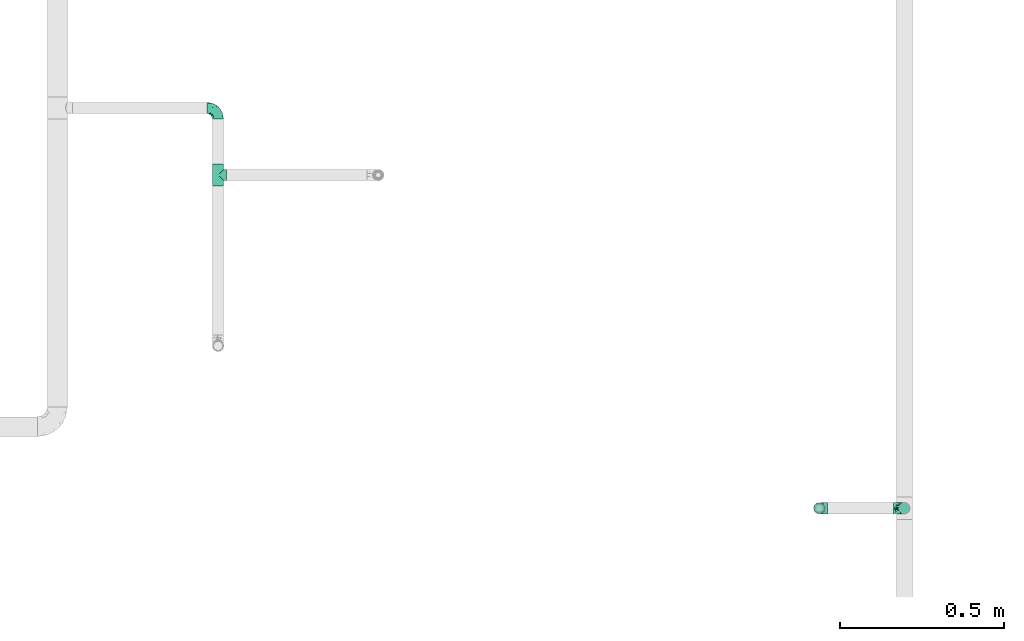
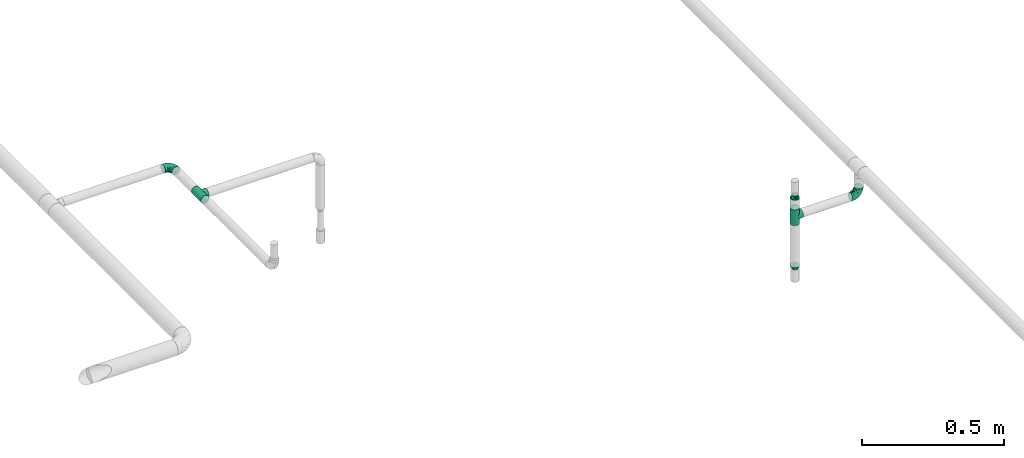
# One storey, part 27 of 43: 6 flow fittings.
"""IFC2X3 building model written with IfcOpenShell, lengths in millimetres."""

from ifc_helpers import new_model, entity, si_unit, converted_unit, derived_unit, direction, frame, origin_with_axes, place, context, subcontext, project, spatial, open_shell, surface_model, source, transform, mapped, type_object, element, save


model = new_model("IFC2X3")

# Units and contexts
model_context = context("Model", 3, precision=0.01, world=frame((0.0, 4.29681676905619e-09, 0.0)), true_north=direction((4.01073788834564e-13, 1.0)))
plan_context = context("Plan", 3, precision=0.01, world=frame((0.0, 4.29681676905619e-09, 0.0)), true_north=direction((4.01073788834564e-13, 1.0)))
body_context = subcontext(model_context, "Body", "Model", "MODEL_VIEW")
ifc_project = project(units=[converted_unit("PLANEANGLEUNIT", "DEGREE", entity("IfcPositiveLengthMeasure", 0.0174532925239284), si_unit("PLANEANGLEUNIT", "RADIAN"), dimensions=[0, 0, 0, 0, 0, 0, 0]), si_unit("AREAUNIT", "SQUARE_METRE"), si_unit("LENGTHUNIT", "METRE", prefix="MILLI"), si_unit("MASSUNIT", "GRAM", prefix="KILO"), si_unit("POWERUNIT", "WATT"), si_unit("PRESSUREUNIT", "PASCAL"), si_unit("FORCEUNIT", "NEWTON", prefix="KILO"), si_unit("ELECTRICVOLTAGEUNIT", "VOLT"), si_unit("ELECTRICCURRENTUNIT", "AMPERE"), si_unit("THERMODYNAMICTEMPERATUREUNIT", "DEGREE_CELSIUS"), si_unit("TIMEUNIT", "SECOND"), si_unit("VOLUMEUNIT", "CUBIC_METRE"), derived_unit("LINEARVELOCITYUNIT", [(si_unit("LENGTHUNIT", "METRE"), 1), (si_unit("TIMEUNIT", "SECOND"), -1)]), derived_unit("VOLUMETRICFLOWRATEUNIT", [(si_unit("VOLUMEUNIT", "CUBIC_METRE"), 1), (si_unit("TIMEUNIT", "SECOND"), -1)]), derived_unit("THERMALTRANSMITTANCEUNIT", [(si_unit("POWERUNIT", "WATT"), 1), (si_unit("THERMODYNAMICTEMPERATUREUNIT", "KELVIN"), -1), (si_unit("AREAUNIT", "SQUARE_METRE"), -1)]), derived_unit("SOUNDPRESSUREUNIT", [(si_unit("PRESSUREUNIT", "PASCAL"), 1)])], contexts=[model_context, plan_context])

# Site, building, storey
site_placement = place(None, frame((0.0, -4.29681676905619e-09, 0.0), z_axis=(0.0, 0.0, 1.0), x_axis=(1.0, 0.0, 0.0)))
site = spatial("IfcSite", under=ifc_project, at=site_placement, CompositionType="ELEMENT")
building_placement = place(site_placement, frame((0.0, 4.29681676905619e-09, 0.0), z_axis=(0.0, 0.0, 1.0), x_axis=(1.0, 0.0, 0.0)))
building = spatial("IfcBuilding", under=site, at=building_placement, Name="mc-building", CompositionType="ELEMENT")
storey_placement = place(building_placement, frame((0.0, 0.0, 210900.0), z_axis=(0.0, 0.0, 1.0), x_axis=(1.0, 0.0, 0.0)))
storey = spatial("IfcBuildingStorey", under=building, at=storey_placement, Name="Nivå F", CompositionType="ELEMENT", Elevation=210900.0)

# Flow fittings
pipe_fitting_type_1 = type_object("IfcPipeFittingType", Name="magi_pipe_fe_elbow_short_001", PredefinedType="BEND")
shared_shape_1 = source(origin_with_axes(), body_context, "Body", "SurfaceModel", [
    surface_model("IfcShellBasedSurfaceModel", [(-33.8, 4.37404, -16.32415), (-33.8, 0.0, -16.9), (-33.8, 11.9501, -11.9501), (-33.8, 8.45, -14.63583), (-33.8, 16.32415, -4.37404), (-33.8, 14.63583, -8.45), (-33.8, -14.63583, -8.45), (-33.8, -16.32415, -4.37404), (-33.8, -8.45, 14.63583), (-33.8, -11.9501, -11.9501), (-33.8, -8.45, -14.63583), (-33.8, -4.37404, -16.32415), (-33.8, -16.9, 0.0), (-33.8, -16.32415, 4.37404), (-33.8, 11.9501, 11.9501), (-33.8, 14.63583, 8.45), (-33.8, 16.32415, 4.37404), (-33.8, 4.37404, 16.32415), (-33.8, 8.45, 14.63583), (-33.8, -14.63583, 8.45), (-33.8, -11.9501, 11.9501), (-33.8, -4.37404, 16.32415), (-33.8, 0.0, 16.9), (-33.8, 16.9, 0.0), (-11.9501, 33.8, -11.9501), (0.0, 33.8, -16.9), (-4.37404, 33.8, -16.32415), (-8.45, 33.8, -14.63583), (-14.63583, 33.8, -8.45), (-16.32415, 33.8, -4.37404), (14.63583, 33.8, -8.45), (8.45, 33.8, 14.63583), (16.32415, 33.8, -4.37404), (8.45, 33.8, -14.63583), (11.9501, 33.8, -11.9501), (4.37404, 33.8, -16.32415), (16.32415, 33.8, 4.37404), (16.9, 33.8, 0.0), (-11.9501, 33.8, 11.9501), (-16.32415, 33.8, 4.37404), (-14.63583, 33.8, 8.45), (-8.45, 33.8, 14.63583), (-4.37404, 33.8, 16.32415), (11.9501, 33.8, 11.9501), (14.63583, 33.8, 8.45), (0.0, 33.8, 16.9), (4.37404, 33.8, 16.32415), (-16.9, 33.8, 0.0), (-24.79389, -13.12945, 9.48721), (-22.19287, -9.75018, 12.59315), (-24.09897, -14.97035, 0.0), (-14.93934, -10.76256, 8.5297), (-22.46095, -14.75051, 5.27077), (14.75051, 22.46094, 5.27077), (11.9251, 13.23888, 4.33236), (13.04069, 14.39795, 0.0), (7.71387, 13.68847, 11.55891), (9.75018, 22.19287, 12.59315), (4.10169, 13.0571, 14.04018), (-24.84007, -6.39063, 15.2048), (-25.81779, -2.23879, 16.61097), (-23.66549, 2.59054, 16.87119), (-26.50418, 14.06512, 11.08152), (-24.21253, 17.66365, 7.72657), (-29.58514, 15.86957, 7.00283), (-6.17382, -7.5455, 0.0), (-13.23888, -11.9251, 4.33236), (-14.39795, -13.04069, 0.0), (-17.81434, 18.87373, 11.97104), (-6.30846, 29.15138, 15.82987), (-2.31622, 25.28002, 16.85849), (-29.23923, 10.23435, 13.77053), (-1.45439, -2.85688, 7.61475), (-0.28326, 0.34872, 10.09509), (-5.74484, -4.04709, 10.4122), (-4.41137, 11.31918, 16.59407), (-8.39727, 3.10034, 15.7812), (-1.72649, 9.1306, 15.53089), (-17.39909, 24.75344, 7.64977), (-26.19233, 20.0512, 0.0), (-28.14518, 17.29657, 4.25857), (-26.05147, 6.6281, 15.96447), (-5.87354, 16.61944, 16.86968), (-12.51807, 12.51807, 16.48937), (-10.06312, 7.38516, 16.81295), (-3.01882, 3.01882, 13.81718), (-13.0571, -4.10169, 14.04018), (-16.82553, -0.15166, 16.38038), (10.76256, 14.93934, 8.5297), (13.12945, 24.79389, 9.48721), (6.39063, 24.84007, 15.2048), (2.23879, 25.81779, 16.61097), (-13.68847, -7.71387, 11.55891), (14.97035, 24.09897, 0.0), (-7.30894, 22.89991, 16.09489), (-10.67958, 26.17414, 14.008), (-12.78295, 18.26924, 15.06066), (-13.88562, 22.45231, 12.93244), (-18.04944, 15.16501, 14.04434), (-23.11658, 20.08178, 4.02986), (-21.84989, 21.84989, 0.0), (-18.55817, 25.48277, 3.93065), (-13.95142, 26.94732, 11.03289), (-18.57098, 7.23906, 16.59756), (-16.58335, 4.14122, 16.89279), (-17.96666, 11.46709, 15.63151), (-9.84453, 17.54304, 16.18938), (0.15166, 16.82553, 16.38038), (-23.27207, 11.47201, 14.23154), (3.84842, 5.86994, 10.70473), (-8.0212, -7.54413, 7.93275), (1.00345, -2.19508, 4.57414), (5.13203, 3.01004, 5.90201), (5.24161, 1.7543, 2.53265), (8.70457, 7.04947, 3.99182), (-20.0512, 26.19233, 0.0), (8.4852, 8.76699, 7.09296), (-4.55488, -6.72064, 4.90681), (2.05031, -2.05031, 0.0), (7.5455, 6.17382, 0.0), (-26.75399, 2.1369, -16.845), (-14.61995, 24.73803, -11.27736), (-28.45274, -13.45335, -9.81895), (-26.00469, 6.63555, -15.96645), (-23.06726, 20.04573, -4.26202), (-13.80647, -4.26506, -14.17873), (-14.67501, -0.21081, -16.07388), (-6.7902, -0.2828, -13.8478), (-24.53586, 11.08096, -14.13417), (-26.72048, 14.00837, -11.05776), (10.0967, 24.44989, -12.75976), (5.83237, 21.40218, -15.03047), (6.66249, 28.54238, -15.38093), (-20.38182, 15.48705, -12.74596), (-15.65186, 19.64213, -13.01327), (-12.03528, 20.66498, -14.67665), (-15.61907, 15.61906, -14.83879), (-25.56551, -15.26206, 0.0), (-24.65452, -15.12934, -5.50955), (12.53268, 21.23441, -9.15363), (13.45335, 28.45274, -9.81895), (15.12934, 24.65452, -5.50955), (-7.35442, -8.31014, -5.65563), (-15.67504, -12.54494, -5.54878), (-24.44989, -10.0967, -12.75976), (0.16522, 0.41303, -9.71728), (-5.70658, -5.33066, -8.89288), (-5.13869, -2.37198, -11.53565), (-21.23441, -12.53268, -9.15363), (0.71146, 7.93863, -14.09382), (0.21081, 14.67501, -16.07388), (3.49291, 14.42772, -14.76381), (-24.89911, -2.13088, -16.591), (-28.54238, -6.66249, -15.38093), (-18.44386, -7.71663, -13.26957), (2.13088, 24.89911, -16.591), (-28.64342, 17.44413, -2.89318), (1.70017, -1.28722, -5.09504), (-16.57067, 26.81947, -7.36596), (-17.69055, 27.4263, -3.76405), (-12.89279, -9.7522, -8.66343), (-5.96611, 5.96611, -15.95814), (-20.53709, 20.09345, -8.28985), (-2.1369, 26.75399, -16.845), (-6.89872, 24.58781, -16.02578), (-10.60739, 26.53157, -13.98044), (-21.40218, -5.83237, -15.03047), (2.93192, 5.89627, -11.55917), (6.89393, 12.61842, -11.82233), (5.58056, 5.95325, -8.79455), (-3.99512, 18.61798, -16.89635), (-9.1383, 9.86148, -16.89041), (-9.99983, 16.02119, -16.39699), (-16.68576, 9.78031, -16.34199), (-27.01915, 16.61158, -7.12979), (15.26206, 25.56551, 0.0), (-18.61798, 3.99512, -16.89635), (-19.37495, 27.82495, 0.0), (9.7522, 12.89279, -8.66343), (-12.61842, -6.89393, -11.82233), (8.31014, 7.35442, -5.65563), (-18.84705, 19.14018, -10.96545), (12.54494, 15.67504, -5.54878)], [open_shell([[[0, 1, 2]], [[3, 0, 2]], [[4, 5, 2]], [[6, 2, 1]], [[2, 7, 8]], [[9, 6, 10]], [[1, 11, 10]], [[10, 6, 1]], [[2, 6, 7]], [[12, 13, 7]], [[4, 2, 14]], [[4, 15, 16]], [[4, 14, 15]], [[17, 18, 14]], [[14, 2, 8]], [[17, 14, 8]], [[19, 20, 13]], [[20, 7, 13]], [[21, 22, 8]], [[20, 8, 7]], [[8, 22, 17]], [[4, 16, 23]], [[24, 25, 26]], [[24, 26, 27]], [[24, 28, 29]], [[25, 24, 30]], [[31, 32, 24]], [[33, 30, 34]], [[33, 35, 25]], [[25, 30, 33]], [[32, 30, 24]], [[32, 36, 37]], [[38, 24, 29]], [[39, 40, 29]], [[40, 38, 29]], [[38, 41, 42]], [[38, 31, 24]], [[31, 38, 42]], [[36, 43, 44]], [[36, 32, 43]], [[31, 45, 46]], [[32, 31, 43]], [[42, 45, 31]], [[39, 29, 47]], [[20, 48, 49]], [[13, 12, 50]], [[51, 48, 52]], [[53, 54, 55]], [[48, 20, 19]], [[13, 52, 19]], [[56, 57, 58]], [[49, 8, 20]], [[49, 59, 8]], [[22, 60, 61]], [[62, 63, 64]], [[65, 66, 67]], [[57, 43, 31]], [[62, 68, 63]], [[42, 69, 70]], [[18, 71, 14]], [[21, 60, 22]], [[72, 73, 74]], [[75, 76, 77]], [[14, 62, 15]], [[40, 39, 78]], [[79, 23, 80]], [[64, 16, 15]], [[22, 61, 17]], [[17, 81, 18]], [[82, 83, 84]], [[74, 85, 86]], [[59, 86, 87]], [[88, 89, 57]], [[90, 31, 46]], [[44, 53, 36]], [[46, 45, 91]], [[54, 53, 88]], [[44, 89, 53]], [[92, 86, 49]], [[89, 44, 43]], [[8, 59, 21]], [[53, 55, 93]], [[93, 36, 53]], [[66, 52, 67]], [[94, 82, 70]], [[95, 96, 94]], [[97, 98, 96]], [[79, 99, 100]], [[41, 38, 95]], [[101, 100, 99]], [[68, 78, 63]], [[42, 41, 69]], [[23, 16, 80]], [[95, 94, 69]], [[78, 101, 99]], [[38, 102, 95]], [[70, 45, 42]], [[97, 95, 102]], [[13, 50, 52]], [[90, 57, 31]], [[57, 90, 58]], [[81, 17, 61]], [[103, 104, 84]], [[105, 81, 103]], [[38, 40, 102]], [[106, 96, 83]], [[94, 106, 82]], [[91, 70, 107]], [[71, 62, 14]], [[62, 108, 98]], [[86, 59, 49]], [[67, 52, 50]], [[60, 59, 87]], [[92, 49, 51]], [[86, 85, 76]], [[91, 90, 46]], [[37, 36, 93]], [[107, 77, 58]], [[107, 58, 90]], [[58, 85, 109]], [[110, 74, 92]], [[72, 74, 110]], [[66, 51, 52]], [[72, 111, 112]], [[113, 114, 112]], [[56, 88, 57]], [[52, 48, 19]], [[49, 48, 51]], [[57, 89, 43]], [[53, 89, 88]], [[103, 81, 61]], [[71, 81, 108]], [[16, 64, 80]], [[63, 78, 99]], [[47, 115, 101]], [[101, 115, 100]], [[40, 78, 102]], [[68, 102, 78]], [[97, 96, 95]], [[105, 98, 108]], [[103, 84, 83]], [[107, 70, 82]], [[76, 84, 87]], [[82, 84, 75]], [[70, 91, 45]], [[90, 91, 107]], [[59, 60, 21]], [[61, 60, 87]], [[73, 85, 74]], [[109, 112, 116]], [[103, 61, 104]], [[105, 103, 83]], [[96, 105, 83]], [[81, 105, 108]], [[96, 98, 105]], [[62, 98, 68]], [[61, 87, 104]], [[87, 84, 104]], [[86, 76, 87]], [[77, 76, 85]], [[58, 77, 85]], [[75, 77, 107]], [[82, 75, 107]], [[76, 75, 84]], [[81, 71, 18]], [[62, 71, 108]], [[95, 69, 41]], [[70, 69, 94]], [[62, 64, 15]], [[80, 63, 99]], [[63, 80, 64]], [[80, 99, 79]], [[66, 65, 117]], [[110, 66, 117]], [[112, 114, 116]], [[118, 117, 65]], [[110, 92, 51]], [[112, 111, 113]], [[119, 55, 54]], [[74, 86, 92]], [[58, 109, 56]], [[116, 56, 109]], [[66, 110, 51]], [[72, 110, 117]], [[111, 72, 117]], [[73, 112, 109]], [[117, 118, 111]], [[113, 111, 118]], [[118, 119, 113]], [[114, 119, 54]], [[119, 114, 113]], [[116, 54, 88]], [[54, 116, 114]], [[116, 88, 56]], [[112, 73, 72]], [[85, 73, 109]], [[78, 39, 101]], [[47, 101, 39]], [[102, 68, 97]], [[97, 68, 98]], [[82, 106, 83]], [[94, 96, 106]], [[0, 120, 1]], [[28, 24, 121]], [[9, 122, 6]], [[3, 123, 0]], [[100, 124, 79]], [[125, 126, 127]], [[128, 2, 129]], [[130, 131, 132]], [[128, 129, 133]], [[134, 135, 136]], [[128, 3, 2]], [[67, 137, 138]], [[139, 140, 141]], [[138, 7, 6]], [[142, 65, 143]], [[144, 9, 10]], [[145, 146, 147]], [[143, 138, 148]], [[149, 150, 151]], [[152, 11, 1]], [[10, 153, 144]], [[148, 144, 154]], [[153, 10, 11]], [[35, 155, 25]], [[23, 79, 156]], [[146, 157, 142]], [[158, 159, 29]], [[143, 160, 142]], [[161, 150, 149]], [[29, 28, 158]], [[121, 162, 158]], [[33, 34, 130]], [[25, 163, 26]], [[26, 163, 164]], [[140, 34, 30]], [[24, 27, 165]], [[124, 159, 162]], [[155, 35, 132]], [[153, 152, 166]], [[123, 3, 128]], [[167, 168, 169]], [[170, 155, 150]], [[26, 164, 27]], [[132, 35, 33]], [[140, 130, 34]], [[166, 152, 126]], [[133, 134, 136]], [[2, 5, 129]], [[168, 131, 130]], [[30, 32, 141]], [[170, 171, 172]], [[173, 123, 128]], [[156, 174, 4]], [[165, 27, 164]], [[172, 164, 170]], [[134, 165, 135]], [[122, 138, 6]], [[137, 12, 7]], [[32, 37, 175]], [[168, 130, 139]], [[150, 155, 131]], [[163, 155, 170]], [[151, 168, 149]], [[150, 161, 171]], [[166, 125, 154]], [[122, 144, 148]], [[120, 152, 1]], [[176, 171, 126]], [[176, 126, 152]], [[126, 161, 127]], [[160, 143, 148]], [[137, 7, 138]], [[32, 175, 141]], [[55, 141, 175]], [[174, 129, 5]], [[128, 133, 136]], [[173, 128, 136]], [[120, 123, 176]], [[121, 158, 28]], [[159, 100, 177]], [[164, 172, 135]], [[121, 24, 165]], [[159, 47, 29]], [[79, 124, 156]], [[124, 162, 174]], [[159, 124, 100]], [[178, 169, 168]], [[127, 161, 149]], [[145, 169, 157]], [[146, 142, 160]], [[127, 149, 167]], [[127, 179, 125]], [[129, 174, 162]], [[5, 4, 174]], [[157, 65, 142]], [[67, 138, 143]], [[123, 120, 0]], [[152, 120, 176]], [[155, 163, 25]], [[164, 163, 170]], [[170, 150, 171]], [[173, 136, 172]], [[126, 171, 161]], [[173, 171, 176]], [[171, 173, 172]], [[123, 173, 176]], [[148, 179, 160]], [[127, 147, 179]], [[179, 146, 160]], [[157, 146, 145]], [[169, 178, 180]], [[168, 139, 178]], [[157, 169, 180]], [[169, 145, 167]], [[167, 145, 147]], [[149, 168, 167]], [[162, 181, 129]], [[181, 121, 134]], [[179, 147, 146]], [[167, 147, 127]], [[181, 134, 133]], [[165, 134, 121]], [[164, 135, 165]], [[172, 136, 135]], [[129, 181, 133]], [[121, 181, 162]], [[159, 158, 162]], [[47, 159, 177]], [[174, 156, 124]], [[23, 156, 4]], [[130, 132, 33]], [[155, 132, 131]], [[141, 140, 30]], [[130, 140, 139]], [[152, 153, 11]], [[144, 153, 166]], [[144, 122, 9]], [[138, 122, 148]], [[150, 131, 151]], [[157, 119, 118]], [[67, 143, 65]], [[168, 151, 131]], [[119, 157, 180]], [[157, 118, 65]], [[154, 125, 179]], [[126, 125, 166]], [[148, 154, 179]], [[166, 154, 144]], [[139, 182, 178]], [[141, 182, 139]], [[178, 182, 180]], [[182, 55, 119]], [[141, 55, 182]], [[182, 119, 180]]])]),
])
for number, where, z_axis, x_axis, name in (
    (1, (608270.34731, 695024.21468, 2660.0), (0.0, 0.0, 1.0), (0.0, 1.0, 0.0), "magi_pipe_fe_elbow_short_001"),
    (2, (610366.6122, 693801.14405, 2546.25), (0.0, 1.0, 0.0), (0.0, 0.0, -1.0), "magi_pipe_fe_elbow_short_001"),
):
    element("IfcFlowFitting", number, at=place(storey_placement, frame(where, z_axis=z_axis, x_axis=x_axis)), inside=storey, type_object=pipe_fitting_type_1, Name=name, context=body_context, shape_type="MappedRepresentation", body=[
        mapped(shared_shape_1, transform((0.0, 0.0, 0.0), scale=1.0)),
    ])
pipe_fitting_type_2 = type_object("IfcPipeFittingType", Name="magi_pipe_fe_tee_centric_90_NOR", PredefinedType="JUNCTION")
shared_shape_2 = source(origin_with_axes(), body_context, "Body", "SurfaceModel", [
    surface_model("IfcShellBasedSurfaceModel", [(-33.8, 8.45, -14.63583), (-33.8, 4.37404, -16.32415), (-33.8, 11.9501, -11.9501), (-33.8, -11.9501, -11.9501), (-33.8, -14.63583, -8.45), (-33.8, -8.45, -14.63583), (-33.8, 0.0, -16.9), (-33.8, -4.37404, -16.32415), (-33.8, -4.37404, 16.32415), (-33.8, 0.0, 16.9), (-33.8, -8.45, 14.63583), (-33.8, 16.32415, -4.37404), (-33.8, 14.63583, -8.45), (-33.8, -16.9, 0.0), (-33.8, -16.32415, -4.37404), (-33.8, 14.63583, 8.45), (-33.8, 16.32415, 4.37404), (-33.8, 8.45, 14.63583), (-33.8, 11.9501, 11.9501), (-33.8, 4.37404, 16.32415), (-33.8, -11.9501, 11.9501), (-33.8, -14.63583, 8.45), (-33.8, -16.32415, 4.37404), (-33.8, 16.9, 0.0), (33.8, 4.37404, -16.32415), (33.8, -16.9, 0.0), (33.8, 0.0, -16.9), (33.8, 14.63583, -8.45), (33.8, 8.45, -14.63583), (33.8, 16.32415, -4.37404), (33.8, 11.9501, -11.9501), (33.8, -16.32415, 4.37404), (33.8, -8.45, -14.63583), (33.8, -4.37404, -16.32415), (33.8, -11.9501, -11.9501), (33.8, -14.63583, -8.45), (33.8, -16.32415, -4.37404), (33.8, 16.32415, 4.37404), (33.8, 8.45, 14.63583), (33.8, 14.63583, 8.45), (33.8, 11.9501, 11.9501), (33.8, -8.45, 14.63583), (33.8, 4.37404, 16.32415), (33.8, -14.63583, 8.45), (33.8, -11.9501, 11.9501), (33.8, 0.0, 16.9), (33.8, -4.37404, 16.32415), (33.8, 16.9, 0.0), (16.28698, -16.28698, 4.51047), (16.9, -16.9, 0.0), (14.62704, -14.62704, 8.4652), (9.47213, -9.47213, 13.99602), (12.26343, -12.26343, 11.62834), (-16.9, -16.9, 0.0), (-16.28698, -16.28698, 4.51047), (-14.62704, -14.62704, 8.4652), (-12.26343, -12.26343, 11.62834), (-9.47213, -9.47213, 13.99602), (-6.42894, -6.42894, 15.62942), (6.42894, -6.42894, 15.62942), (3.24522, -3.24522, 16.58549), (0.0, 0.0, 16.9), (-3.24522, -3.24522, 16.58549), (3.24522, -3.24522, -16.58549), (0.0, 0.0, -16.9), (-3.24522, -3.24522, -16.58549), (-6.42894, -6.42894, -15.62942), (6.42894, -6.42894, -15.62942), (9.47213, -9.47213, -13.99602), (12.26343, -12.26343, -11.62834), (14.62704, -14.62704, -8.4652), (16.28698, -16.28698, -4.51047), (-9.47213, -9.47213, -13.99602), (-12.26343, -12.26343, -11.62834), (-16.28698, -16.28698, -4.51047), (-14.62704, -14.62704, -8.4652), (4.37404, -25.35, -16.32415), (-16.9, -25.35, 0.0), (0.0, -25.35, -16.9), (14.63583, -25.35, -8.45), (8.45, -25.35, -14.63583), (16.32415, -25.35, -4.37404), (11.9501, -25.35, -11.9501), (-11.9501, -25.35, -11.9501), (-8.45, -25.35, -14.63583), (-4.37404, -25.35, -16.32415), (-14.63583, -25.35, -8.45), (-16.32415, -25.35, -4.37404), (16.9, -25.35, 0.0), (8.45, -25.35, 14.63583), (16.32415, -25.35, 4.37404), (14.63583, -25.35, 8.45), (-8.45, -25.35, 14.63583), (11.9501, -25.35, 11.9501), (4.37404, -25.35, 16.32415), (-16.32415, -25.35, 4.37404), (-11.9501, -25.35, 11.9501), (-14.63583, -25.35, 8.45), (0.0, -25.35, 16.9), (-4.37404, -25.35, 16.32415)], [open_shell([[[0, 1, 2]], [[3, 4, 5]], [[6, 7, 5]], [[8, 9, 10]], [[1, 6, 11]], [[1, 11, 12]], [[2, 1, 12]], [[13, 11, 6]], [[14, 13, 4]], [[6, 5, 4]], [[6, 4, 13]], [[13, 15, 11]], [[15, 16, 11]], [[10, 15, 13]], [[15, 10, 17]], [[18, 15, 17]], [[19, 17, 9]], [[20, 10, 21]], [[22, 21, 10]], [[10, 13, 22]], [[10, 9, 17]], [[23, 11, 16]], [[24, 25, 26]], [[27, 24, 28]], [[27, 29, 24]], [[27, 28, 30]], [[31, 25, 24]], [[26, 32, 33]], [[26, 34, 32]], [[35, 25, 36]], [[35, 34, 26]], [[25, 35, 26]], [[24, 29, 31]], [[29, 37, 38]], [[38, 37, 39]], [[38, 31, 29]], [[38, 39, 40]], [[41, 38, 42]], [[43, 41, 44]], [[41, 43, 31]], [[41, 45, 46]], [[41, 31, 38]], [[42, 45, 41]], [[29, 47, 37]], [[31, 43, 48]], [[25, 31, 49]], [[49, 31, 48]], [[43, 50, 48]], [[44, 41, 51]], [[50, 43, 52]], [[51, 52, 44]], [[52, 43, 44]], [[53, 54, 22]], [[53, 22, 13]], [[22, 54, 21]], [[54, 55, 21]], [[56, 57, 20]], [[20, 21, 56]], [[20, 57, 10]], [[56, 21, 55]], [[10, 57, 58]], [[51, 41, 59]], [[60, 45, 61]], [[59, 46, 60]], [[46, 59, 41]], [[60, 46, 45]], [[61, 45, 42]], [[39, 37, 16]], [[18, 38, 40]], [[15, 40, 39]], [[42, 38, 17]], [[23, 37, 47]], [[62, 61, 9]], [[62, 8, 58]], [[8, 62, 9]], [[58, 8, 10]], [[61, 19, 9]], [[42, 19, 61]], [[17, 19, 42]], [[17, 38, 18]], [[15, 18, 40]], [[16, 15, 39]], [[37, 23, 16]], [[12, 27, 30]], [[23, 47, 29]], [[30, 28, 0]], [[27, 11, 29]], [[26, 33, 63]], [[26, 64, 24]], [[64, 26, 63]], [[28, 24, 1]], [[64, 1, 24]], [[2, 30, 0]], [[11, 27, 12]], [[12, 30, 2]], [[11, 23, 29]], [[65, 66, 7]], [[6, 1, 64]], [[6, 65, 7]], [[66, 5, 7]], [[1, 0, 28]], [[6, 64, 65]], [[63, 33, 67]], [[32, 34, 68]], [[69, 68, 34]], [[35, 70, 69]], [[69, 34, 35]], [[32, 68, 67]], [[36, 25, 49]], [[36, 71, 35]], [[71, 36, 49]], [[35, 71, 70]], [[72, 5, 66]], [[72, 3, 5]], [[3, 72, 73]], [[3, 73, 4]], [[74, 53, 14]], [[75, 74, 4]], [[74, 14, 4]], [[14, 53, 13]], [[75, 4, 73]], [[32, 67, 33]], [[76, 77, 78]], [[79, 76, 80]], [[79, 81, 76]], [[79, 80, 82]], [[77, 76, 81]], [[78, 83, 84]], [[84, 85, 78]], [[86, 77, 87]], [[83, 78, 86]], [[77, 86, 78]], [[81, 88, 77]], [[89, 88, 90]], [[89, 90, 91]], [[92, 77, 89]], [[89, 91, 93]], [[92, 89, 94]], [[95, 96, 97]], [[96, 95, 92]], [[92, 98, 99]], [[95, 77, 92]], [[94, 98, 92]], [[89, 77, 88]], [[77, 95, 53]], [[54, 53, 95]], [[97, 96, 56]], [[96, 92, 57]], [[95, 97, 54]], [[58, 92, 99]], [[55, 54, 97]], [[56, 55, 97]], [[58, 57, 92]], [[98, 61, 62]], [[58, 99, 62]], [[56, 96, 57]], [[62, 99, 98]], [[94, 60, 98]], [[89, 59, 94]], [[91, 90, 48]], [[52, 93, 91]], [[93, 51, 89]], [[49, 90, 88]], [[59, 60, 94]], [[51, 59, 89]], [[49, 48, 90]], [[50, 52, 91]], [[48, 50, 91]], [[51, 93, 52]], [[98, 60, 61]], [[88, 81, 49]], [[71, 49, 81]], [[79, 82, 69]], [[82, 80, 68]], [[81, 79, 71]], [[67, 80, 76]], [[70, 71, 79]], [[69, 70, 79]], [[67, 68, 80]], [[78, 64, 63]], [[67, 76, 63]], [[69, 82, 68]], [[63, 76, 78]], [[85, 65, 78]], [[84, 66, 85]], [[86, 87, 74]], [[86, 73, 83]], [[72, 84, 83]], [[53, 87, 77]], [[66, 65, 85]], [[72, 66, 84]], [[53, 74, 87]], [[75, 73, 86]], [[74, 75, 86]], [[72, 83, 73]], [[78, 65, 64]]])]),
])
for number, where, z_axis, x_axis, name in (
    (3, (608270.34731, 694818.86468, 2660.0), (0.0, 0.0, 1.0), (0.0, 1.0, 0.0), "magi_pipe_fe_tee_centric_90_NOR"),
    (4, (610106.6122, 693801.14405, 2546.25), (0.0, -1.0, 0.0), (0.0, 0.0, 1.0), "magi_pipe_fe_tee_centric_90_NOR"),
):
    element("IfcFlowFitting", number, at=place(storey_placement, frame(where, z_axis=z_axis, x_axis=x_axis)), inside=storey, type_object=pipe_fitting_type_2, Name=name, context=body_context, shape_type="MappedRepresentation", body=[
        mapped(shared_shape_2, transform((0.0, 0.0, 0.0), scale=1.0)),
    ])
pipe_fitting_type_3 = type_object("IfcPipeFittingType", Name="magi_pipe_fe_reducer_centric_short_NOR", PredefinedType="TRANSITION")
shared_shape_3 = source(origin_with_axes(), body_context, "Body", "SurfaceModel", [
    surface_model("IfcShellBasedSurfaceModel", [(14.4, 4.37404, -16.32415), (14.4, 8.45, -14.63583), (14.4, 11.9501, -11.9501), (14.4, -8.45, -14.63583), (14.4, 16.32415, -4.37404), (14.4, 16.32415, 4.37404), (14.4, 14.63583, -8.45), (14.4, 0.0, -16.9), (14.4, -4.37404, -16.32415), (14.4, -11.9501, -11.9501), (14.4, -16.32415, -4.37404), (14.4, -14.63583, -8.45), (14.4, -16.32415, 4.37404), (14.4, 16.9, 0.0), (14.4, 14.63583, 8.45), (14.4, 11.9501, 11.9501), (14.4, 4.37404, 16.32415), (14.4, 8.45, 14.63583), (14.4, 0.0, 16.9), (14.4, -14.63583, 8.45), (14.4, -16.9, 0.0), (14.4, -8.45, 14.63583), (14.4, -11.9501, 11.9501), (14.4, -4.37404, 16.32415), (12.4, 4.37404, 16.32415), (12.4, -14.63583, 8.45), (12.4, 0.0, 16.9), (12.4, 16.32415, 4.37404), (12.4, 8.45, 14.63583), (12.4, 11.9501, 11.9501), (12.4, 14.63583, 8.45), (12.4, -8.45, 14.63583), (12.4, -11.9501, 11.9501), (12.4, -4.37404, 16.32415), (12.4, -16.32415, 4.37404), (12.4, -16.32415, -4.37404), (12.4, -16.9, 0.0), (12.4, -8.45, -14.63583), (12.4, 16.32415, -4.37404), (12.4, 11.9501, -11.9501), (12.4, 14.63583, -8.45), (12.4, 8.45, -14.63583), (12.4, 4.37404, -16.32415), (12.4, 0.0, -16.9), (12.4, -11.9501, -11.9501), (12.4, -14.63583, -8.45), (12.4, -4.37404, -16.32415), (12.4, 16.9, 0.0), (-2.0, 10.33541, 2.76936), (-2.0, 0.0, 10.7), (-2.0, 2.76936, 10.33541), (-2.0, 7.56604, 7.56604), (-2.0, 5.35, 9.26647), (-2.0, 9.26647, 5.35), (-2.0, -9.26647, 5.35), (-2.0, -2.76936, 10.33541), (-2.0, -7.56604, 7.56604), (-2.0, -5.35, 9.26647), (-2.0, -10.33541, 2.76936), (-2.0, -10.33541, -2.76936), (-2.0, -10.7, 0.0), (-2.0, 10.33541, -2.76936), (-2.0, 7.56604, -7.56604), (-2.0, 9.26647, -5.35), (-2.0, 5.35, -9.26647), (-2.0, -5.35, -9.26647), (-2.0, 2.76936, -10.33541), (-2.0, -7.56604, -7.56604), (-2.0, -9.26647, -5.35), (-2.0, 0.0, -10.7), (-2.0, -2.76936, -10.33541), (-2.0, 10.7, 0.0), (0.0, 5.35, -9.26647), (0.0, 0.0, -10.7), (0.0, 2.76936, -10.33541), (0.0, 10.33541, -2.76936), (0.0, 7.56604, -7.56604), (0.0, -5.35, -9.26647), (0.0, 9.26647, -5.35), (0.0, -9.26647, 5.35), (0.0, -2.76936, -10.33541), (0.0, -7.56604, -7.56604), (0.0, -10.33541, -2.76936), (0.0, -9.26647, -5.35), (0.0, 10.33541, 2.76936), (0.0, 10.7, 0.0), (0.0, 9.26647, 5.35), (0.0, 7.56604, 7.56604), (0.0, 2.76936, 10.33541), (0.0, 0.0, 10.7), (0.0, 5.35, 9.26647), (0.0, -10.33541, 2.76936), (0.0, -10.7, 0.0), (0.0, -7.56604, 7.56604), (0.0, -2.76936, 10.33541), (0.0, -5.35, 9.26647), (0.0, -9.3625, -2.31662), (12.4, -14.42505, -5.97505), (12.4, -15.66253, -2.98753), (0.0, 6.6875, -6.94985), (12.4, 8.96258, -13.18758), (0.0, -6.6875, -6.94985), (12.4, -8.96258, -13.18758), (0.0, 9.3625, -2.31662), (12.4, 15.66253, -2.98753), (12.4, 14.42505, -5.97505), (12.4, -5.97505, -14.42505), (12.4, 5.97505, -14.42505), (0.0, 2.675, -9.26647), (12.4, 13.18758, -8.96258), (0.0, -2.675, -9.26647), (12.4, -13.18758, -8.96258), (0.0, -8.025, -4.63324), (12.4, 2.98753, -15.66253), (0.0, 0.0, -9.26647), (12.4, -2.98753, -15.66253), (0.0, 8.025, -4.63324), (0.0, 9.3625, 2.31662), (12.4, 14.42505, 5.97505), (12.4, 15.66253, 2.98753), (0.0, -6.6875, 6.94985), (12.4, -8.96258, 13.18758), (0.0, 6.6875, 6.94985), (12.4, 8.96258, 13.18758), (0.0, -9.3625, 2.31662), (12.4, -15.66253, 2.98753), (12.4, -14.42505, 5.97505), (12.4, 5.97505, 14.42505), (12.4, -5.97505, 14.42505), (0.0, -2.675, 9.26647), (12.4, -13.18758, 8.96258), (0.0, 2.675, 9.26647), (12.4, 13.18758, 8.96258), (0.0, 8.025, 4.63324), (12.4, -2.98753, 15.66253), (0.0, 0.0, 9.26647), (12.4, 2.98753, 15.66253), (0.0, -8.025, 4.63324)], [open_shell([[[0, 1, 2]], [[3, 0, 2]], [[2, 4, 5]], [[4, 2, 6]], [[2, 5, 3]], [[7, 3, 8]], [[7, 0, 3]], [[9, 10, 11]], [[10, 9, 3]], [[3, 12, 10]], [[5, 4, 13]], [[5, 14, 15]], [[5, 15, 16]], [[16, 12, 3]], [[16, 15, 17]], [[12, 16, 18]], [[18, 19, 12]], [[20, 10, 12]], [[19, 21, 22]], [[19, 18, 21]], [[21, 18, 23]], [[3, 5, 16]], [[24, 25, 26]], [[27, 24, 28]], [[29, 30, 27]], [[29, 27, 28]], [[25, 24, 27]], [[31, 25, 32]], [[31, 33, 26]], [[26, 25, 31]], [[34, 25, 27]], [[34, 35, 36]], [[34, 27, 37]], [[27, 38, 39]], [[39, 38, 40]], [[39, 41, 42]], [[37, 27, 39]], [[42, 43, 39]], [[35, 44, 45]], [[44, 35, 37]], [[37, 43, 46]], [[35, 34, 37]], [[39, 43, 37]], [[38, 27, 47]], [[35, 10, 36]], [[45, 11, 35]], [[3, 44, 37]], [[45, 44, 9]], [[8, 37, 46]], [[35, 11, 10]], [[10, 20, 36]], [[8, 3, 37]], [[9, 44, 3]], [[9, 11, 45]], [[7, 8, 46]], [[46, 43, 7]], [[42, 0, 43]], [[41, 1, 42]], [[6, 39, 40]], [[41, 39, 2]], [[4, 40, 38]], [[41, 2, 1]], [[1, 0, 42]], [[13, 4, 38]], [[6, 40, 4]], [[6, 2, 39]], [[47, 13, 38]], [[43, 0, 7]], [[27, 5, 47]], [[30, 14, 27]], [[17, 29, 28]], [[30, 29, 15]], [[16, 28, 24]], [[27, 14, 5]], [[5, 13, 47]], [[16, 17, 28]], [[15, 29, 17]], [[15, 14, 30]], [[18, 16, 24]], [[24, 26, 18]], [[33, 23, 26]], [[31, 21, 33]], [[19, 32, 25]], [[31, 32, 22]], [[12, 25, 34]], [[31, 22, 21]], [[21, 23, 33]], [[20, 12, 34]], [[19, 25, 12]], [[19, 22, 32]], [[36, 20, 34]], [[26, 23, 18]], [[48, 49, 50]], [[51, 50, 52]], [[51, 53, 48]], [[51, 48, 50]], [[49, 48, 54]], [[55, 56, 57]], [[56, 55, 54]], [[58, 59, 60]], [[54, 55, 49]], [[58, 54, 59]], [[54, 48, 61]], [[59, 54, 61]], [[62, 61, 63]], [[59, 62, 64]], [[61, 62, 59]], [[65, 64, 66]], [[59, 67, 68]], [[67, 59, 65]], [[65, 69, 70]], [[65, 59, 64]], [[66, 69, 65]], [[61, 48, 71]], [[72, 73, 74]], [[75, 72, 76]], [[77, 72, 75]], [[75, 76, 78]], [[79, 77, 75]], [[73, 77, 80]], [[73, 72, 77]], [[81, 82, 83]], [[82, 81, 77]], [[77, 79, 82]], [[84, 75, 85]], [[84, 86, 87]], [[75, 87, 79]], [[88, 89, 87]], [[88, 87, 90]], [[79, 87, 89]], [[82, 91, 92]], [[79, 91, 82]], [[93, 94, 95]], [[94, 93, 79]], [[89, 94, 79]], [[75, 84, 87]], [[59, 82, 60]], [[68, 83, 59]], [[77, 67, 65]], [[68, 67, 81]], [[80, 65, 70]], [[59, 83, 82]], [[82, 92, 60]], [[80, 77, 65]], [[81, 67, 77]], [[81, 83, 68]], [[73, 80, 70]], [[70, 69, 73]], [[66, 74, 69]], [[64, 72, 66]], [[78, 62, 63]], [[64, 62, 76]], [[75, 63, 61]], [[64, 76, 72]], [[72, 74, 66]], [[85, 75, 61]], [[78, 63, 75]], [[78, 76, 62]], [[71, 85, 61]], [[69, 74, 73]], [[48, 84, 71]], [[53, 86, 48]], [[90, 51, 52]], [[53, 51, 87]], [[88, 52, 50]], [[48, 86, 84]], [[84, 85, 71]], [[88, 90, 52]], [[87, 51, 90]], [[87, 86, 53]], [[89, 88, 50]], [[50, 49, 89]], [[55, 94, 49]], [[57, 95, 55]], [[79, 56, 54]], [[57, 56, 93]], [[91, 54, 58]], [[57, 93, 95]], [[95, 94, 55]], [[92, 91, 58]], [[79, 54, 91]], [[79, 93, 56]], [[60, 92, 58]], [[49, 94, 89]], [[29, 26, 39]], [[39, 47, 29]], [[36, 26, 32]], [[36, 44, 43]], [[43, 39, 36]], [[36, 39, 26]], [[92, 95, 77]], [[85, 95, 90]], [[85, 72, 77]], [[85, 77, 95]], [[96, 97, 98]], [[92, 96, 98]], [[99, 100, 72]], [[98, 36, 92]], [[44, 101, 102]], [[101, 77, 102]], [[103, 104, 105]], [[85, 47, 104]], [[77, 106, 102]], [[107, 108, 72]], [[109, 39, 99]], [[106, 77, 110]], [[101, 111, 112]], [[113, 114, 108]], [[100, 99, 39]], [[110, 115, 106]], [[99, 116, 109]], [[100, 107, 72]], [[96, 112, 97]], [[105, 116, 103]], [[85, 104, 103]], [[108, 107, 113]], [[113, 43, 114]], [[116, 105, 109]], [[114, 115, 110]], [[43, 115, 114]], [[111, 101, 44]], [[111, 97, 112]], [[117, 118, 119]], [[85, 117, 119]], [[120, 121, 95]], [[119, 47, 85]], [[29, 122, 123]], [[122, 90, 123]], [[124, 125, 126]], [[92, 36, 125]], [[90, 127, 123]], [[128, 129, 95]], [[130, 32, 120]], [[127, 90, 131]], [[122, 132, 133]], [[134, 135, 129]], [[121, 120, 32]], [[131, 136, 127]], [[120, 137, 130]], [[121, 128, 95]], [[117, 133, 118]], [[126, 137, 124]], [[92, 125, 124]], [[129, 128, 134]], [[134, 26, 135]], [[137, 126, 130]], [[135, 136, 131]], [[26, 136, 135]], [[132, 122, 29]], [[132, 118, 133]]])]),
])
for number, where, z_axis, x_axis, name in (
    (5, (610106.6122, 693801.14405, 2316.95199999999), (-1.0, 0.0, 0.0), (0.0, 0.0, 1.0), "magi_pipe_fe_reducer_centric_short_NOR"),
    (6, (610106.6122, 693801.14405, 2635.04999999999), (0.0, -1.0, 0.0), (0.0, 0.0, -1.0), "magi_pipe_fe_reducer_centric_short_NOR"),
):
    element("IfcFlowFitting", number, at=place(storey_placement, frame(where, z_axis=z_axis, x_axis=x_axis)), inside=storey, type_object=pipe_fitting_type_3, Name=name, context=body_context, shape_type="MappedRepresentation", body=[
        mapped(shared_shape_3, transform((0.0, 0.0, 0.0), scale=1.0)),
    ])

save(model, "model.ifc")
